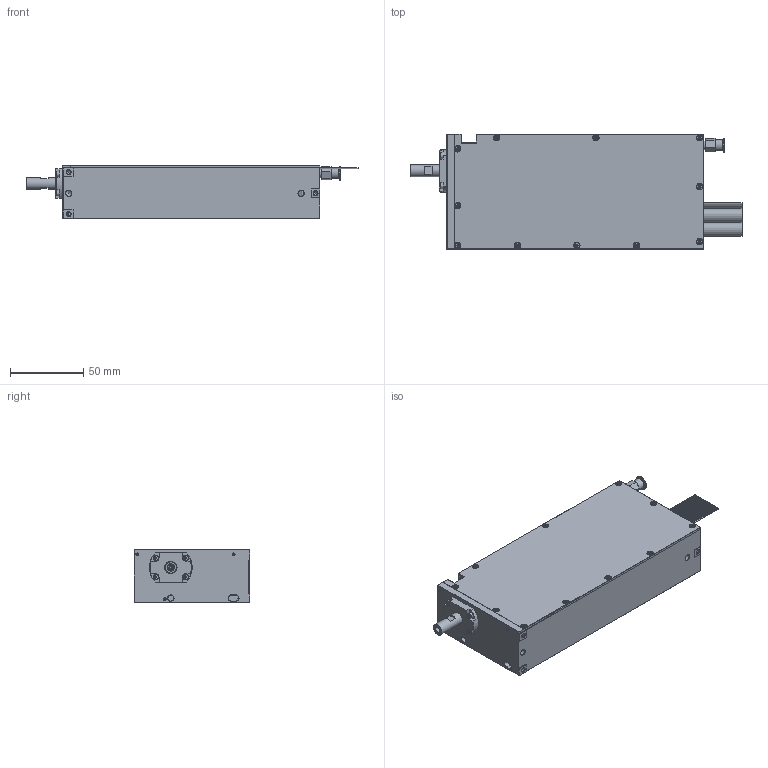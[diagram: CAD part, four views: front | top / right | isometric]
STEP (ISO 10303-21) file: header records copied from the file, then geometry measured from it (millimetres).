
FILE_DESCRIPTION((''),'2;1');
FILE_NAME('C:\Users\karl\Favorites\Desktop\Sent Stuff\SAORI\LAR31-050-1 web.stp','2014-07-11T15:36:11',('Karl2'),(''),'Autodesk Inventor 2008','Autodesk Inventor 2008','');
FILE_SCHEMA(('AUTOMOTIVE_DESIGN { 1 0 10303 214 1 1 1 1 }'));
Length unit declared in the file: millimetre
Products named in the file (21): LAR31-050-1 EXPORT; 11598-01_C1; BUMPER; 22794-01_A; FLEX-24-PHS6; 48025-00; RIBBON1-PHS6; nly19FD3qzvs-None_2; 23589-01_A3; DIN 7985 (H) M2x2-H; 18557-06_A; 16585-01_A; Bolted Connection; Forged Socket Head Cap Screw - Metric M2x0.4 x 6; Broached Socket Head Cap Screw - Metric M2x0.4 x 6; Broached Socket Head Cap Screw - Metric M2x0.4 x 3; AS 1427 Z - Metric M2 x 4; Cross Recessed Flat Countersunk Head Machine Screw - Type I - Metric M2x0.4 x 3
Assembly tree (30 placements, depth 3):
  LAR31-050-1 EXPORT
    11598-01_C1
    BUMPER
    22794-01_A
    FLEX-24-PHS6
    48025-00
    RIBBON1-PHS6
    nly19FD3qzvs-None_2
    23589-01_A3
    DIN 7985 (H) M2x2-H  x2
    18557-06_A
    16585-01_A
    Bolted Connection
      Forged Socket Head Cap Screw - Metric M2x0.4 x 6
    Bolted Connection
      Broached Socket Head Cap Screw - Metric M2x0.4 x 6
    Bolted Connection
      Broached Socket Head Cap Screw - Metric M2x0.4 x 6
    Broached Socket Head Cap Screw - Metric M2x0.4 x 3
    AS 1427 Z - Metric M2 x 4  x8
    Cross Recessed Flat Countersunk Head Machine Screw - Type I - Metric M2x0.4 x 3  x3
  Bolted Connection
Bounding box: 225.9 x 78.75 x 36.4 mm (x, y, z)
Volume: 162258.5 mm3; surface area: 116606.5 mm2
Topology: 61 solids, 61 shells, 1337 faces, 3366 edges, 2056 vertices
Faces by surface type: plane 595, cylinder 324, cone 301, torus 91, bspline 24, sphere 2
Full cylindrical faces by diameter (mm): 0.635 x72, 1.5 x1, 1.567 x24, 1.755 x8, 1.8 x2, 2 x22, 2.4 x14, 2.459 x14, 2.7 x2, 2.9 x7, 3 x3, 3.2 x1, 3.242 x1, 3.3 x1, 3.5 x14, 3.8 x4, 3.9 x1, 3.975 x1, 4 x6, 4.1 x2, 4.134 x1, 4.2 x1, 4.5 x1, 4.917 x4, 4.995 x6, 5 x2, 6 x2, 7.2 x1, 7.996 x1, 8 x1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
Entity records: 26712 total; most frequent: CARTESIAN_POINT 5146, DIRECTION 4639, ORIENTED_EDGE 3766, AXIS2_PLACEMENT_3D 1890, EDGE_CURVE 1883, EDGE_LOOP 1460, VERTEX_POINT 1311, FACE_OUTER_BOUND 942
